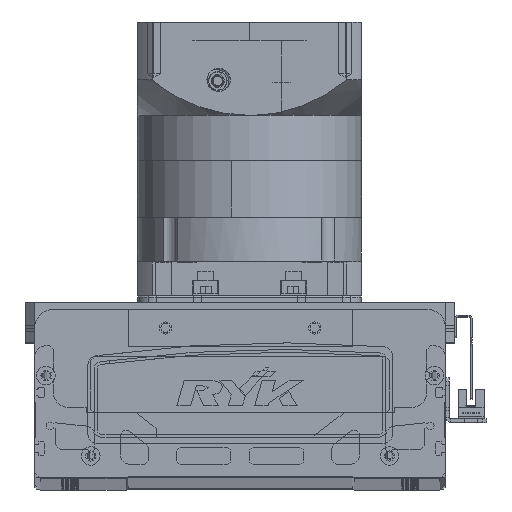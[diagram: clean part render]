
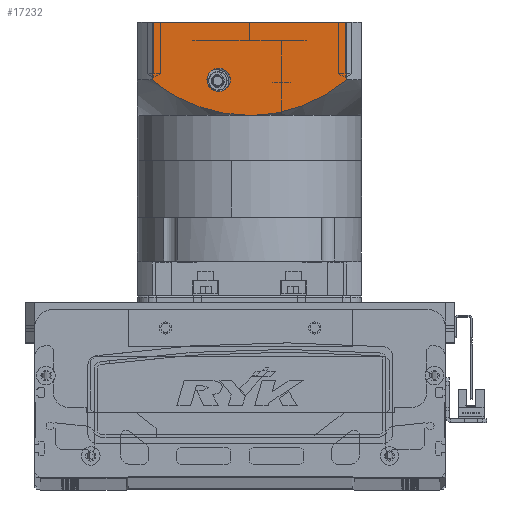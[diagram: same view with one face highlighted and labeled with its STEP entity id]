
A CAD part, top view. The second image highlights one B-rep face of the part: STEP entity #17232.
In plain terms, the highlighted planar face has unit normal (0, 0, 1) as drawn and (0, -1, 0) by its records, which use the part's own axes.
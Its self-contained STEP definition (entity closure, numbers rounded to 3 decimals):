
#363 = EDGE_CURVE ( 'NONE', #59870, #61370, #67658, .T. ) ;
#1419 = CARTESIAN_POINT ( 'NONE',  ( -60., -60., -150.5 ) ) ;
#2782 = ORIENTED_EDGE ( 'NONE', *, *, #8532, .T. ) ;
#2910 = DIRECTION ( 'NONE',  ( 1., 0., 0. ) ) ;
#3368 = CARTESIAN_POINT ( 'NONE',  ( 0., -60., -100.5 ) ) ;
#3421 = CARTESIAN_POINT ( 'NONE',  ( -52.156, -60., -97.5 ) ) ;
#4424 = CARTESIAN_POINT ( 'NONE',  ( -11.825, -60., -101.356 ) ) ;
#4695 = EDGE_CURVE ( 'NONE', #64110, #26581, #8911, .T. ) ;
#5261 = CARTESIAN_POINT ( 'NONE',  ( 16.5, -60., -125.75 ) ) ;
#6039 = VERTEX_POINT ( 'NONE', #12980 ) ;
#6229 = FACE_BOUND ( 'NONE', #14454, .T. ) ;
#6776 = ORIENTED_EDGE ( 'NONE', *, *, #363, .T. ) ;
#6998 = CARTESIAN_POINT ( 'NONE',  ( 0., -60., -100.5 ) ) ;
#7230 = B_SPLINE_CURVE_WITH_KNOTS ( 'NONE', 3,
 ( #16287, #64883, #22110, #41128, #70731, #10509, #58770, #35047, #34533, #40342, #64348, #52930, #53446, #70488, #77047, #34254, #77293, #52434 ),
 .UNSPECIFIED., .F., .F.,
 ( 4, 2, 2, 2, 2, 2, 2, 2, 4 ),
 ( 0., 0.014, 0.018, 0.021, 0.028, 0.042, 0.046, 0.05, 0.057 ),
 .UNSPECIFIED. ) ;
#8532 = EDGE_CURVE ( 'NONE', #6039, #40522, #30677, .T. ) ;
#8911 = B_SPLINE_CURVE_WITH_KNOTS ( 'NONE', 3,
 ( #21335, #74986, #32449, #75772, #74712, #63606, #50628, #69452, #39342, #45374, #56700, #38805, #4424, #69985, #28471, #70523, #52205, #3368 ),
 .UNSPECIFIED., .F., .F.,
 ( 4, 2, 2, 2, 2, 2, 2, 2, 4 ),
 ( 0., 0.014, 0.018, 0.021, 0.028, 0.042, 0.046, 0.05, 0.057 ),
 .UNSPECIFIED. ) ;
#9146 = DIRECTION ( 'NONE',  ( 0., -1., 0. ) ) ;
#10509 = CARTESIAN_POINT ( 'NONE',  ( 18.739, -60., -102.681 ) ) ;
#11280 = EDGE_CURVE ( 'NONE', #40522, #68186, #70128, .T. ) ;
#11303 = DIRECTION ( 'NONE',  ( 0., 1., 0. ) ) ;
#12546 = CARTESIAN_POINT ( 'NONE',  ( 52.156, -60., -119.5 ) ) ;
#12980 = CARTESIAN_POINT ( 'NONE',  ( -52.156, -60., -150.5 ) ) ;
#13578 = CARTESIAN_POINT ( 'NONE',  ( 52.156, -60., -150.5 ) ) ;
#14454 = EDGE_LOOP ( 'NONE', ( #56409, #6776 ) ) ;
#15768 = FACE_OUTER_BOUND ( 'NONE', #33199, .T. ) ;
#16287 = CARTESIAN_POINT ( 'NONE',  ( 0., -60., -100.5 ) ) ;
#17232 = ADVANCED_FACE ( 'NONE', ( #15768, #6229 ), #37682, .T. ) ;
#21335 = CARTESIAN_POINT ( 'NONE',  ( -52.156, -60., -119.5 ) ) ;
#22110 = CARTESIAN_POINT ( 'NONE',  ( 9.454, -60., -100.914 ) ) ;
#26432 = CARTESIAN_POINT ( 'NONE',  ( -60., -60., -150.5 ) ) ;
#26581 = VERTEX_POINT ( 'NONE', #6998 ) ;
#28471 = CARTESIAN_POINT ( 'NONE',  ( -8.294, -60., -100.916 ) ) ;
#30677 = LINE ( 'NONE', #26432, #34476 ) ;
#32449 = CARTESIAN_POINT ( 'NONE',  ( -44.656, -60., -113.73 ) ) ;
#32967 = DIRECTION ( 'NONE',  ( 0., 0., -1. ) ) ;
#33199 = EDGE_LOOP ( 'NONE', ( #57319, #2782, #38004, #56198, #40090 ) ) ;
#33275 = EDGE_CURVE ( 'NONE', #61370, #59870, #77853, .T. ) ;
#34254 = CARTESIAN_POINT ( 'NONE',  ( 48.457, -60., -116.522 ) ) ;
#34476 = VECTOR ( 'NONE', #2910, 1000. ) ;
#34533 = CARTESIAN_POINT ( 'NONE',  ( 25.577, -60., -104.596 ) ) ;
#35047 = CARTESIAN_POINT ( 'NONE',  ( 23.329, -60., -103.886 ) ) ;
#35855 = DIRECTION ( 'NONE',  ( 0., 0., -1. ) ) ;
#37682 = PLANE ( 'NONE',  #40500 ) ;
#38004 = ORIENTED_EDGE ( 'NONE', *, *, #11280, .T. ) ;
#38668 = AXIS2_PLACEMENT_3D ( 'NONE', #68920, #74974, #32967 ) ;
#38805 = CARTESIAN_POINT ( 'NONE',  ( -12.993, -60., -101.537 ) ) ;
#38996 = DIRECTION ( 'NONE',  ( 1., 0., 0. ) ) ;
#39342 = CARTESIAN_POINT ( 'NONE',  ( -29.939, -60., -106.183 ) ) ;
#40090 = ORIENTED_EDGE ( 'NONE', *, *, #4695, .F. ) ;
#40342 = CARTESIAN_POINT ( 'NONE',  ( 32.196, -60., -107.007 ) ) ;
#40500 = AXIS2_PLACEMENT_3D ( 'NONE', #1419, #9146, #38996 ) ;
#40522 = VERTEX_POINT ( 'NONE', #13578 ) ;
#41128 = CARTESIAN_POINT ( 'NONE',  ( 15.267, -60., -101.938 ) ) ;
#45374 = CARTESIAN_POINT ( 'NONE',  ( -23.319, -60., -103.777 ) ) ;
#47442 = CARTESIAN_POINT ( 'NONE',  ( 16.5, -60., -119.5 ) ) ;
#49391 = LINE ( 'NONE', #3421, #77786 ) ;
#50628 = CARTESIAN_POINT ( 'NONE',  ( -35.342, -60., -108.587 ) ) ;
#51086 = VECTOR ( 'NONE', #53746, 1000. ) ;
#52205 = CARTESIAN_POINT ( 'NONE',  ( -2.376, -60., -100.5 ) ) ;
#52434 = CARTESIAN_POINT ( 'NONE',  ( 52.156, -60., -119.5 ) ) ;
#52930 = CARTESIAN_POINT ( 'NONE',  ( 41.545, -60., -111.931 ) ) ;
#53446 = CARTESIAN_POINT ( 'NONE',  ( 42.555, -60., -112.543 ) ) ;
#53746 = DIRECTION ( 'NONE',  ( 0., 0., 1. ) ) ;
#55843 = EDGE_CURVE ( 'NONE', #26581, #68186, #7230, .T. ) ;
#56198 = ORIENTED_EDGE ( 'NONE', *, *, #55843, .F. ) ;
#56409 = ORIENTED_EDGE ( 'NONE', *, *, #33275, .T. ) ;
#56700 = CARTESIAN_POINT ( 'NONE',  ( -18.792, -60., -102.562 ) ) ;
#57319 = ORIENTED_EDGE ( 'NONE', *, *, #64943, .F. ) ;
#58411 = AXIS2_PLACEMENT_3D ( 'NONE', #47442, #11303, #35855 ) ;
#58770 = CARTESIAN_POINT ( 'NONE',  ( 19.894, -60., -102.964 ) ) ;
#59870 = VERTEX_POINT ( 'NONE', #71256 ) ;
#61370 = VERTEX_POINT ( 'NONE', #5261 ) ;
#63606 = CARTESIAN_POINT ( 'NONE',  ( -36.409, -60., -109.113 ) ) ;
#63648 = DIRECTION ( 'NONE',  ( 0., 0., 1. ) ) ;
#64110 = VERTEX_POINT ( 'NONE', #77277 ) ;
#64348 = CARTESIAN_POINT ( 'NONE',  ( 36.444, -60., -108.986 ) ) ;
#64883 = CARTESIAN_POINT ( 'NONE',  ( 4.753, -60., -100.5 ) ) ;
#64943 = EDGE_CURVE ( 'NONE', #6039, #64110, #49391, .T. ) ;
#67658 = CIRCLE ( 'NONE', #58411, 6.25 ) ;
#68186 = VERTEX_POINT ( 'NONE', #12546 ) ;
#68920 = CARTESIAN_POINT ( 'NONE',  ( 16.5, -60., -119.5 ) ) ;
#69452 = CARTESIAN_POINT ( 'NONE',  ( -32.118, -60., -107.084 ) ) ;
#69985 = CARTESIAN_POINT ( 'NONE',  ( -9.477, -60., -101.046 ) ) ;
#70128 = LINE ( 'NONE', #71810, #51086 ) ;
#70488 = CARTESIAN_POINT ( 'NONE',  ( 44.553, -60., -113.817 ) ) ;
#70523 = CARTESIAN_POINT ( 'NONE',  ( -4.747, -60., -100.604 ) ) ;
#70731 = CARTESIAN_POINT ( 'NONE',  ( 16.426, -60., -102.169 ) ) ;
#71256 = CARTESIAN_POINT ( 'NONE',  ( 16.5, -60., -113.25 ) ) ;
#71810 = CARTESIAN_POINT ( 'NONE',  ( 52.156, -60., -150.5 ) ) ;
#74712 = CARTESIAN_POINT ( 'NONE',  ( -38.51, -60., -110.207 ) ) ;
#74974 = DIRECTION ( 'NONE',  ( 0., 1., 0. ) ) ;
#74986 = CARTESIAN_POINT ( 'NONE',  ( -48.52, -60., -116.438 ) ) ;
#75772 = CARTESIAN_POINT ( 'NONE',  ( -39.546, -60., -110.776 ) ) ;
#77047 = CARTESIAN_POINT ( 'NONE',  ( 45.542, -60., -114.478 ) ) ;
#77277 = CARTESIAN_POINT ( 'NONE',  ( -52.156, -60., -119.5 ) ) ;
#77293 = CARTESIAN_POINT ( 'NONE',  ( 50.338, -60., -117.969 ) ) ;
#77786 = VECTOR ( 'NONE', #63648, 1000. ) ;
#77853 = CIRCLE ( 'NONE', #38668, 6.25 ) ;
